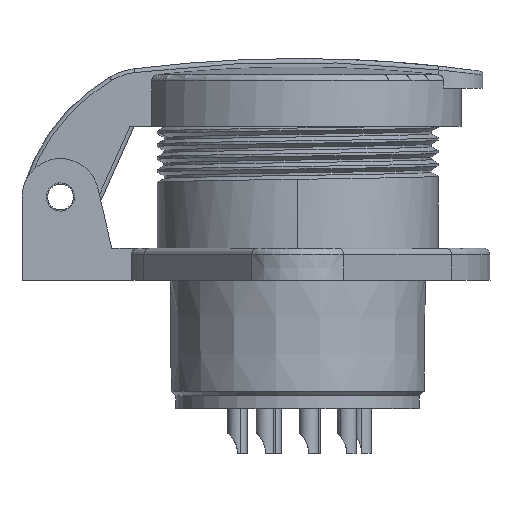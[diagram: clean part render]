
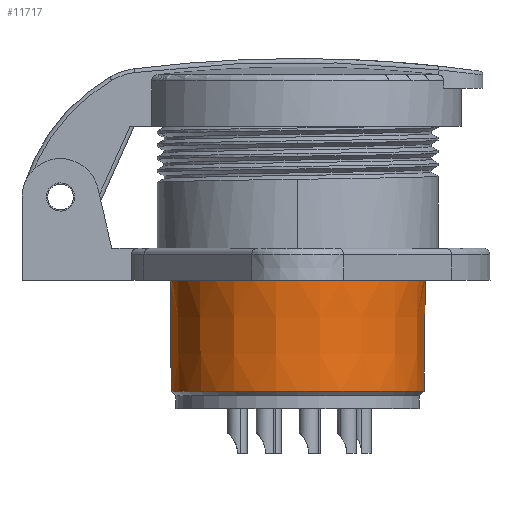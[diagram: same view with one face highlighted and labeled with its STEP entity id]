
A CAD part, left-side view. The second image highlights one B-rep face of the part: STEP entity #11717.
In plain terms, the highlighted conical face has half-angle 0.59 degrees and reference radius 9.905 mm.
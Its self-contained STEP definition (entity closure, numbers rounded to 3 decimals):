
#2501=CARTESIAN_POINT('',(11.262,-21.5,-13.));
#2502=DIRECTION('',(0.,0.,-1.));
#2503=DIRECTION('',(0.,-1.,0.));
#2504=AXIS2_PLACEMENT_3D('',#2501,#2502,#2503);
#2593=DIRECTION('',(0.,0.01,-1.));
#2594=VECTOR('',#2593,8.639);
#2595=CARTESIAN_POINT('',(11.262,-31.45,-13.));
#2596=LINE('',#2595,#2594);
#2597=CARTESIAN_POINT('',(11.262,-21.5,-21.639));
#2598=DIRECTION('',(0.,0.,-1.));
#2599=DIRECTION('',(0.,-1.,0.));
#2600=AXIS2_PLACEMENT_3D('',#2597,#2598,#2599);
#2602=DIRECTION('',(0.,0.01,1.));
#2603=VECTOR('',#2602,8.639);
#2604=CARTESIAN_POINT('',(11.262,-11.639,
-21.639));
#2605=LINE('',#2604,#2603);
#6441=CARTESIAN_POINT('',(11.262,-31.45,-13.));
#6442=CARTESIAN_POINT('',(11.262,-31.361,
-21.639));
#6443=VERTEX_POINT('',#6441);
#6444=VERTEX_POINT('',#6442);
#6477=CARTESIAN_POINT('',(11.262,-11.55,-13.));
#6478=VERTEX_POINT('',#6477);
#6665=CARTESIAN_POINT('',(11.262,-11.639,
-21.639));
#6666=VERTEX_POINT('',#6665);
#11705=CARTESIAN_POINT('',(11.262,-21.5,-17.319));
#11706=DIRECTION('',(0.,0.,1.));
#11707=DIRECTION('',(0.,-1.,0.));
#11708=AXIS2_PLACEMENT_3D('',#11705,#11706,#11707);
#11709=CONICAL_SURFACE('',#11708,9.906,0.59);
#11710=ORIENTED_EDGE('',*,*,#11539,.F.);
#11711=ORIENTED_EDGE('',*,*,#11700,.T.);
#11713=ORIENTED_EDGE('',*,*,#11712,.T.);
#11714=ORIENTED_EDGE('',*,*,#11696,.T.);
#11715=EDGE_LOOP('',(#11710,#11711,#11713,#11714));
#11716=FACE_OUTER_BOUND('',#11715,.F.);
#2505=CIRCLE('',#2504,9.95);
#2601=CIRCLE('',#2600,9.861);
#11539=EDGE_CURVE('',#6443,#6478,#2505,.T.);
#11696=EDGE_CURVE('',#6666,#6478,#2605,.T.);
#11700=EDGE_CURVE('',#6443,#6444,#2596,.T.);
#11712=EDGE_CURVE('',#6444,#6666,#2601,.T.);
#11717=ADVANCED_FACE('',(#11716),#11709,.T.);
